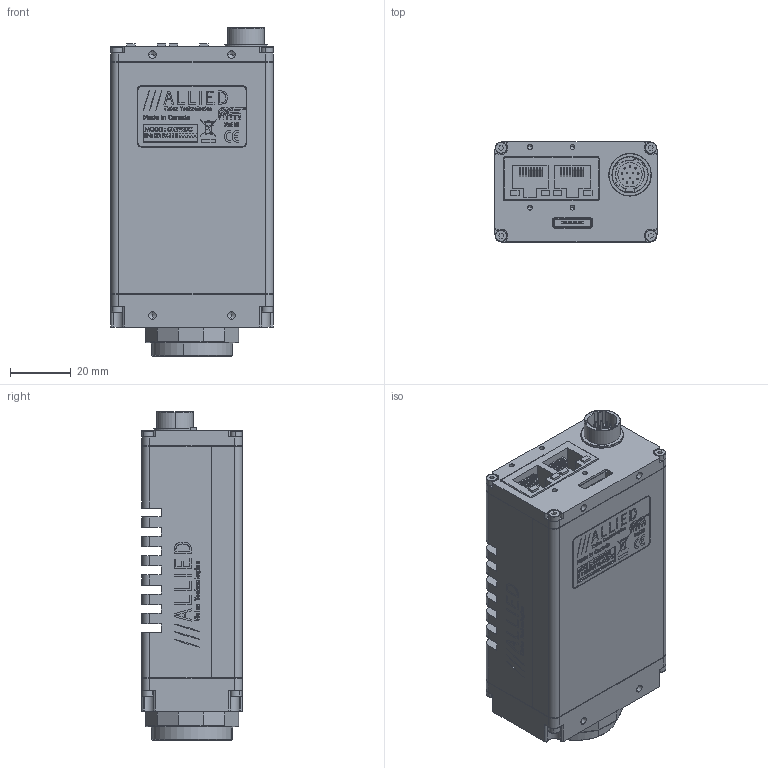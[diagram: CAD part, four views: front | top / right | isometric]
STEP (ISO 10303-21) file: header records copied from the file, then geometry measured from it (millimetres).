
FILE_DESCRIPTION (( 'STEP AP214' ), '1' );
FILE_NAME ('GX1920C.STEP', '2013-08-07T18:52:37', ( '' ), ( '' ), 'SwSTEP 2.0', 'SolidWorks 2013', '' );
FILE_SCHEMA (( 'AUTOMOTIVE_DESIGN' ));
Length unit declared in the file: millimetre
Products named in the file (25): 100172D - GX BODY ASSY SONY-THERMAL; 200115B-GX POWER PCBA FOR SONY; 260048-HIROSE 3260-8S3; 200114B-GX MAIN PCBA FOR SONY; 260043-HALO HFJ12-1G16ER-L12RL; 110099B-GX BOTTOM COVER-THERMAL_Finished; 100171A - GX BACK ASSY; 260034-HIROSE HR10A-10R-12PB; 100180A - GX1920C FRONT ASSY; 110097A-GX BACK PLATE; 220183-SONY ICX674AQG; 110100B-GX TOP COVER-THERMAL_Finished; SONY ICX674 WINDOW; 740102B-GX SERIES LABEL; SONY ICX674 BODY; 740121B-GX1920C LABEL PRINT; 100097A-IR FILTER ASSEMBLY 0.75 INCH; 140061-SCREW SKT CAP M2x8 SS; 110054AB-IR FILTER SUPPORT; 440002-IR CUT FILTER 22MM DIA; GX1920C; 110003AC-CV CMOUNT RING; 110103A-GX CCD GASKET; 110118A-GX FRONT PLATE ICX674; 110031A-B EC-CCD LOCKING RING
Assembly tree (31 placements, depth 4):
  GX1920C
    140061-SCREW SKT CAP M2x8 SS  x4
    740121B-GX1920C LABEL PRINT
    740102B-GX SERIES LABEL
    100172D - GX BODY ASSY SONY-THERMAL
      110100B-GX TOP COVER-THERMAL_Finished
      140061-SCREW SKT CAP M2x8 SS  x4
      100171A - GX BACK ASSY
        110097A-GX BACK PLATE
        260034-HIROSE HR10A-10R-12PB
      110099B-GX BOTTOM COVER-THERMAL_Finished
      200114B-GX MAIN PCBA FOR SONY
        260043-HALO HFJ12-1G16ER-L12RL
      200115B-GX POWER PCBA FOR SONY
        260048-HIROSE 3260-8S3
    100180A - GX1920C FRONT ASSY
      110031A-B EC-CCD LOCKING RING
      110118A-GX FRONT PLATE ICX674
      110103A-GX CCD GASKET
      110003AC-CV CMOUNT RING
      100097A-IR FILTER ASSEMBLY 0.75 INCH
        440002-IR CUT FILTER 22MM DIA
        110054AB-IR FILTER SUPPORT
      220183-SONY ICX674AQG
        SONY ICX674 BODY
        SONY ICX674 WINDOW
Bounding box: 53.39 x 33.02 x 108.1 mm (x, y, z)
Volume: 80963.6 mm3; surface area: 73957.6 mm2
Topology: 69 solids, 69 shells, 4109 faces, 10651 edges, 6928 vertices
Faces by surface type: plane 2266, bspline 890, cylinder 699, cone 254
Entity records: 198181 total; most frequent: CARTESIAN_POINT 60402, ORIENTED_EDGE 20526, DIRECTION 16279, EDGE_CURVE 10263, VECTOR 6963, LINE 6963, VERTEX_POINT 6760, AXIS2_PLACEMENT_3D 4658
